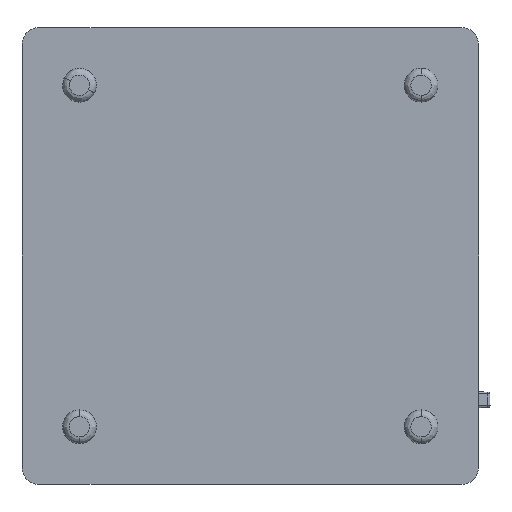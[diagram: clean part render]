
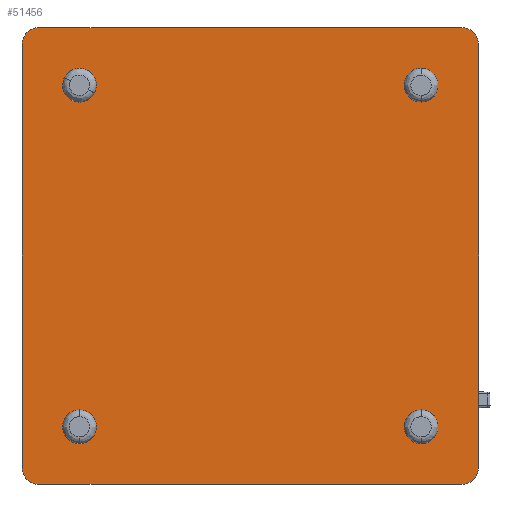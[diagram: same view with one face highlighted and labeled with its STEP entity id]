
A CAD part, front view. The second image highlights one B-rep face of the part: STEP entity #51456.
In plain terms, the highlighted planar face has unit normal (0, -1, 0).
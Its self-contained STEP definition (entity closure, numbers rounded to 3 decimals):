
#14 = CARTESIAN_POINT ( 'NONE',  ( -50.5, 0., 50.5 ) ) ;
#46 = ORIENTED_EDGE ( 'NONE', *, *, #83325, .F. ) ;
#138 = FACE_BOUND ( 'NONE', #38593, .T. ) ;
#483 = DIRECTION ( 'NONE',  ( 0., 0., 1. ) ) ;
#1588 = EDGE_CURVE ( 'NONE', #9834, #6014, #40125, .T. ) ;
#1755 = ORIENTED_EDGE ( 'NONE', *, *, #13752, .F. ) ;
#2651 = VERTEX_POINT ( 'NONE', #66417 ) ;
#2867 = DIRECTION ( 'NONE',  ( 0., 1., 0. ) ) ;
#3169 = CIRCLE ( 'NONE', #60934, 3. ) ;
#3211 = DIRECTION ( 'NONE',  ( 0., 1., 0. ) ) ;
#3896 = VERTEX_POINT ( 'NONE', #8678 ) ;
#4295 = VERTEX_POINT ( 'NONE', #34312 ) ;
#4443 = CIRCLE ( 'NONE', #43507, 5. ) ;
#5974 = DIRECTION ( 'NONE',  ( 0., 0., 1. ) ) ;
#6014 = VERTEX_POINT ( 'NONE', #13804 ) ;
#6376 = CARTESIAN_POINT ( 'NONE',  ( -62.5, 0., -67.5 ) ) ;
#6557 = ORIENTED_EDGE ( 'NONE', *, *, #26270, .T. ) ;
#6642 = CARTESIAN_POINT ( 'NONE',  ( 67.5, 0., 62.5 ) ) ;
#8158 = ORIENTED_EDGE ( 'NONE', *, *, #1588, .F. ) ;
#8678 = CARTESIAN_POINT ( 'NONE',  ( 50.5, 0., 53.5 ) ) ;
#8703 = CARTESIAN_POINT ( 'NONE',  ( -62.5, 0., -67.5 ) ) ;
#9350 = CARTESIAN_POINT ( 'NONE',  ( -50.5, 0., -50.5 ) ) ;
#9545 = CARTESIAN_POINT ( 'NONE',  ( -62.5, 0., 62.5 ) ) ;
#9596 = DIRECTION ( 'NONE',  ( 0., 1., 0. ) ) ;
#9834 = VERTEX_POINT ( 'NONE', #6376 ) ;
#9932 = AXIS2_PLACEMENT_3D ( 'NONE', #22210, #35060, #61485 ) ;
#10265 = EDGE_LOOP ( 'NONE', ( #46, #45703, #8158, #84745, #34347, #67505, #57296, #1755 ) ) ;
#10411 = DIRECTION ( 'NONE',  ( 0., 0., -1. ) ) ;
#10762 = CARTESIAN_POINT ( 'NONE',  ( -50.5, 0., -47.5 ) ) ;
#10835 = CIRCLE ( 'NONE', #44180, 3. ) ;
#11341 = DIRECTION ( 'NONE',  ( 0., 0., 1. ) ) ;
#12322 = CARTESIAN_POINT ( 'NONE',  ( 67.5, 0., 62.5 ) ) ;
#12376 = DIRECTION ( 'NONE',  ( 0., 0., 1. ) ) ;
#12873 = CARTESIAN_POINT ( 'NONE',  ( 62.5, 0., 62.5 ) ) ;
#13514 = VERTEX_POINT ( 'NONE', #34118 ) ;
#13752 = EDGE_CURVE ( 'NONE', #60095, #4295, #49683, .T. ) ;
#13804 = CARTESIAN_POINT ( 'NONE',  ( -67.5, 0., -62.5 ) ) ;
#14700 = DIRECTION ( 'NONE',  ( 0., 0., 1. ) ) ;
#15976 = EDGE_LOOP ( 'NONE', ( #6557, #22344 ) ) ;
#16890 = CIRCLE ( 'NONE', #67681, 5. ) ;
#17321 = CARTESIAN_POINT ( 'NONE',  ( 50.5, 0., -53.5 ) ) ;
#17712 = VERTEX_POINT ( 'NONE', #70930 ) ;
#18875 = CARTESIAN_POINT ( 'NONE',  ( -62.5, 0., 67.5 ) ) ;
#21894 = DIRECTION ( 'NONE',  ( 0., 0., -1. ) ) ;
#22210 = CARTESIAN_POINT ( 'NONE',  ( -50.5, 0., -50.5 ) ) ;
#22344 = ORIENTED_EDGE ( 'NONE', *, *, #83439, .T. ) ;
#23193 = DIRECTION ( 'NONE',  ( 0., 1., 0. ) ) ;
#23814 = FACE_BOUND ( 'NONE', #58470, .T. ) ;
#23871 = EDGE_CURVE ( 'NONE', #17712, #9834, #67190, .T. ) ;
#26270 = EDGE_CURVE ( 'NONE', #73577, #31123, #38611, .T. ) ;
#26333 = DIRECTION ( 'NONE',  ( 0., 1., 0. ) ) ;
#27124 = LINE ( 'NONE', #6642, #55884 ) ;
#27162 = VECTOR ( 'NONE', #28113, 1000. ) ;
#27357 = AXIS2_PLACEMENT_3D ( 'NONE', #31786, #64823, #38932 ) ;
#27640 = EDGE_CURVE ( 'NONE', #80849, #66572, #27124, .T. ) ;
#28111 = EDGE_CURVE ( 'NONE', #4295, #80849, #4443, .T. ) ;
#28113 = DIRECTION ( 'NONE',  ( -1., 0., 0. ) ) ;
#30171 = AXIS2_PLACEMENT_3D ( 'NONE', #67650, #23193, #66689 ) ;
#31009 = LINE ( 'NONE', #69583, #81287 ) ;
#31123 = VERTEX_POINT ( 'NONE', #54305 ) ;
#31421 = VERTEX_POINT ( 'NONE', #17321 ) ;
#31786 = CARTESIAN_POINT ( 'NONE',  ( -62.5, 0., 62.5 ) ) ;
#31988 = FACE_BOUND ( 'NONE', #77521, .T. ) ;
#32267 = CIRCLE ( 'NONE', #48902, 3. ) ;
#32562 = ORIENTED_EDGE ( 'NONE', *, *, #72491, .T. ) ;
#32814 = ORIENTED_EDGE ( 'NONE', *, *, #49239, .T. ) ;
#33275 = DIRECTION ( 'NONE',  ( 0., 0., -1. ) ) ;
#33702 = CARTESIAN_POINT ( 'NONE',  ( -67.5, 0., 62.5 ) ) ;
#34118 = CARTESIAN_POINT ( 'NONE',  ( -50.5, 0., 47.5 ) ) ;
#34312 = CARTESIAN_POINT ( 'NONE',  ( 62.5, 0., 67.5 ) ) ;
#34347 = ORIENTED_EDGE ( 'NONE', *, *, #35743, .F. ) ;
#34516 = EDGE_CURVE ( 'NONE', #38868, #31421, #49808, .T. ) ;
#34610 = EDGE_CURVE ( 'NONE', #3896, #42229, #32267, .T. ) ;
#35060 = DIRECTION ( 'NONE',  ( 0., 1., 0. ) ) ;
#35631 = CARTESIAN_POINT ( 'NONE',  ( 50.5, 0., 50.5 ) ) ;
#35743 = EDGE_CURVE ( 'NONE', #66572, #17712, #16890, .T. ) ;
#35827 = CARTESIAN_POINT ( 'NONE',  ( 50.5, 0., 50.5 ) ) ;
#36916 = CIRCLE ( 'NONE', #37185, 3. ) ;
#37185 = AXIS2_PLACEMENT_3D ( 'NONE', #78212, #26333, #483 ) ;
#37422 = ORIENTED_EDGE ( 'NONE', *, *, #34516, .T. ) ;
#38138 = AXIS2_PLACEMENT_3D ( 'NONE', #14, #47044, #14700 ) ;
#38593 = EDGE_LOOP ( 'NONE', ( #74164, #52709 ) ) ;
#38611 = CIRCLE ( 'NONE', #9932, 3. ) ;
#38868 = VERTEX_POINT ( 'NONE', #64376 ) ;
#38932 = DIRECTION ( 'NONE',  ( 0., 0., -1. ) ) ;
#39539 = AXIS2_PLACEMENT_3D ( 'NONE', #42764, #76014, #69180 ) ;
#40125 = CIRCLE ( 'NONE', #39539, 5. ) ;
#41883 = ORIENTED_EDGE ( 'NONE', *, *, #80455, .T. ) ;
#42229 = VERTEX_POINT ( 'NONE', #53218 ) ;
#42764 = CARTESIAN_POINT ( 'NONE',  ( -62.5, 0., -62.5 ) ) ;
#43507 = AXIS2_PLACEMENT_3D ( 'NONE', #12873, #45229, #5974 ) ;
#44180 = AXIS2_PLACEMENT_3D ( 'NONE', #35827, #2867, #80570 ) ;
#44974 = DIRECTION ( 'NONE',  ( 1., 0., 0. ) ) ;
#45229 = DIRECTION ( 'NONE',  ( 0., 1., 0. ) ) ;
#45295 = EDGE_CURVE ( 'NONE', #6014, #73323, #31009, .T. ) ;
#45703 = ORIENTED_EDGE ( 'NONE', *, *, #45295, .F. ) ;
#47044 = DIRECTION ( 'NONE',  ( 0., 1., 0. ) ) ;
#48902 = AXIS2_PLACEMENT_3D ( 'NONE', #35631, #9596, #74918 ) ;
#49082 = CARTESIAN_POINT ( 'NONE',  ( 62.5, 0., -62.5 ) ) ;
#49239 = EDGE_CURVE ( 'NONE', #31421, #38868, #36916, .T. ) ;
#49683 = LINE ( 'NONE', #50149, #53824 ) ;
#49808 = CIRCLE ( 'NONE', #30171, 3. ) ;
#50149 = CARTESIAN_POINT ( 'NONE',  ( -62.5, 0., 67.5 ) ) ;
#51456 = ADVANCED_FACE ( 'NONE', ( #66920, #31988, #138, #23814, #65861 ), #74307, .T. ) ;
#51631 = DIRECTION ( 'NONE',  ( 0., 1., 0. ) ) ;
#52709 = ORIENTED_EDGE ( 'NONE', *, *, #80682, .T. ) ;
#53218 = CARTESIAN_POINT ( 'NONE',  ( 50.5, 0., 47.5 ) ) ;
#53824 = VECTOR ( 'NONE', #44974, 1000. ) ;
#54282 = AXIS2_PLACEMENT_3D ( 'NONE', #70882, #51631, #12376 ) ;
#54305 = CARTESIAN_POINT ( 'NONE',  ( -50.5, 0., -53.5 ) ) ;
#54913 = DIRECTION ( 'NONE',  ( 0., 1., 0. ) ) ;
#55884 = VECTOR ( 'NONE', #33275, 1000. ) ;
#56584 = AXIS2_PLACEMENT_3D ( 'NONE', #9545, #67769, #21894 ) ;
#57296 = ORIENTED_EDGE ( 'NONE', *, *, #28111, .F. ) ;
#58470 = EDGE_LOOP ( 'NONE', ( #32562, #41883 ) ) ;
#60095 = VERTEX_POINT ( 'NONE', #18875 ) ;
#60934 = AXIS2_PLACEMENT_3D ( 'NONE', #9350, #54913, #74666 ) ;
#61485 = DIRECTION ( 'NONE',  ( 0., 0., -1. ) ) ;
#64376 = CARTESIAN_POINT ( 'NONE',  ( 50.5, 0., -47.5 ) ) ;
#64378 = CARTESIAN_POINT ( 'NONE',  ( 67.5, 0., -62.5 ) ) ;
#64823 = DIRECTION ( 'NONE',  ( 0., 1., 0. ) ) ;
#65861 = FACE_OUTER_BOUND ( 'NONE', #10265, .T. ) ;
#66417 = CARTESIAN_POINT ( 'NONE',  ( -50.5, 0., 53.5 ) ) ;
#66572 = VERTEX_POINT ( 'NONE', #64378 ) ;
#66689 = DIRECTION ( 'NONE',  ( 0., 0., 1. ) ) ;
#66920 = FACE_BOUND ( 'NONE', #15976, .T. ) ;
#67190 = LINE ( 'NONE', #8703, #27162 ) ;
#67505 = ORIENTED_EDGE ( 'NONE', *, *, #27640, .F. ) ;
#67650 = CARTESIAN_POINT ( 'NONE',  ( 50.5, 0., -50.5 ) ) ;
#67681 = AXIS2_PLACEMENT_3D ( 'NONE', #49082, #3211, #10411 ) ;
#67769 = DIRECTION ( 'NONE',  ( 0., -1., 0. ) ) ;
#68856 = CIRCLE ( 'NONE', #27357, 5. ) ;
#69180 = DIRECTION ( 'NONE',  ( 0., 0., -1. ) ) ;
#69496 = CIRCLE ( 'NONE', #54282, 3. ) ;
#69583 = CARTESIAN_POINT ( 'NONE',  ( -67.5, 0., 62.5 ) ) ;
#70882 = CARTESIAN_POINT ( 'NONE',  ( -50.5, 0., 50.5 ) ) ;
#70930 = CARTESIAN_POINT ( 'NONE',  ( 62.5, 0., -67.5 ) ) ;
#72299 = CIRCLE ( 'NONE', #38138, 3. ) ;
#72491 = EDGE_CURVE ( 'NONE', #2651, #13514, #69496, .T. ) ;
#73323 = VERTEX_POINT ( 'NONE', #33702 ) ;
#73577 = VERTEX_POINT ( 'NONE', #10762 ) ;
#74164 = ORIENTED_EDGE ( 'NONE', *, *, #34610, .T. ) ;
#74307 = PLANE ( 'NONE',  #56584 ) ;
#74666 = DIRECTION ( 'NONE',  ( 0., 0., -1. ) ) ;
#74918 = DIRECTION ( 'NONE',  ( 0., 0., -1. ) ) ;
#76014 = DIRECTION ( 'NONE',  ( 0., 1., 0. ) ) ;
#77521 = EDGE_LOOP ( 'NONE', ( #37422, #32814 ) ) ;
#78212 = CARTESIAN_POINT ( 'NONE',  ( 50.5, 0., -50.5 ) ) ;
#80455 = EDGE_CURVE ( 'NONE', #13514, #2651, #72299, .T. ) ;
#80570 = DIRECTION ( 'NONE',  ( 0., 0., -1. ) ) ;
#80682 = EDGE_CURVE ( 'NONE', #42229, #3896, #10835, .T. ) ;
#80849 = VERTEX_POINT ( 'NONE', #12322 ) ;
#81287 = VECTOR ( 'NONE', #11341, 1000. ) ;
#83325 = EDGE_CURVE ( 'NONE', #73323, #60095, #68856, .T. ) ;
#83439 = EDGE_CURVE ( 'NONE', #31123, #73577, #3169, .T. ) ;
#84745 = ORIENTED_EDGE ( 'NONE', *, *, #23871, .F. ) ;
